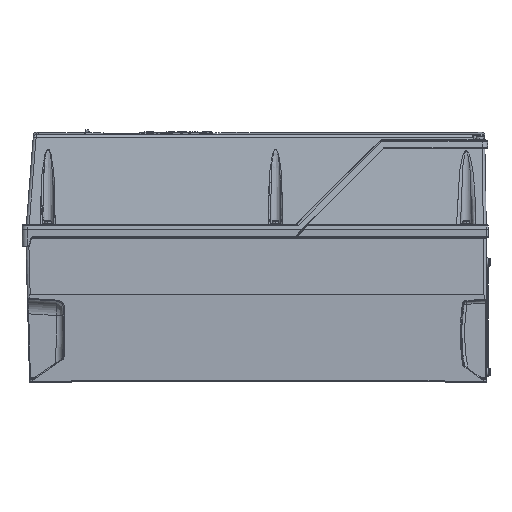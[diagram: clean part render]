
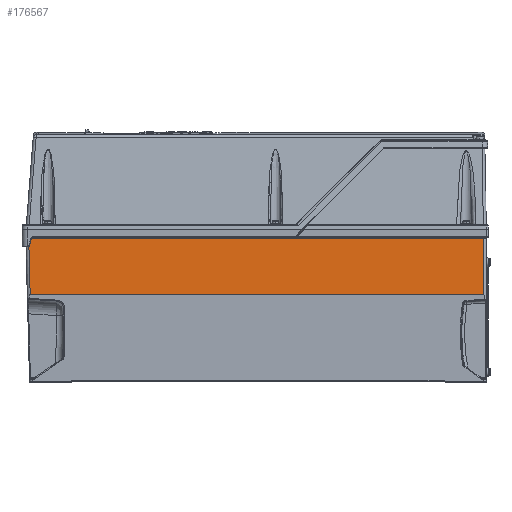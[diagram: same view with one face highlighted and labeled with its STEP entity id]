
A CAD part, left-side view. The second image highlights one B-rep face of the part: STEP entity #176567.
In plain terms, the highlighted planar face has unit normal (-1, 0, 0.024).
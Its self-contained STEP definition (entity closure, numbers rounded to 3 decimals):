
#1884=DIRECTION('',(0.,1.,0.));
#1885=VECTOR('',#1884,469.893);
#1886=CARTESIAN_POINT('',(-119.097,-235.,
-1.979));
#1887=LINE('',#1886,#1885);
#45195=CARTESIAN_POINT('',(-120.515,233.374,
-60.));
#45197=DIRECTION('',(0.,-1.,0.));
#45198=VECTOR('',#45197,468.374);
#45199=CARTESIAN_POINT('',(-120.515,233.374,
-60.));
#45200=LINE('',#45199,#45198);
#51315=DIRECTION('',(0.024,0.,1.));
#51316=VECTOR('',#51315,58.039);
#51317=CARTESIAN_POINT('',(-120.515,-235.,
-60.));
#51318=LINE('',#51317,#51316);
#51319=DIRECTION('',(0.024,0.026,0.999));
#51320=VECTOR('',#51319,58.059);
#51321=CARTESIAN_POINT('',(-120.515,233.374,
-60.));
#51322=LINE('',#51321,#51320);
#60002=CARTESIAN_POINT('',(-119.097,234.893,
-1.979));
#60003=VERTEX_POINT('',#60002);
#60004=CARTESIAN_POINT('',(-119.097,-235.,
-1.979));
#60005=VERTEX_POINT('',#60004);
#60551=VERTEX_POINT('',#45195);
#60552=CARTESIAN_POINT('',(-120.515,-235.,
-60.));
#60553=VERTEX_POINT('',#60552);
#176556=CARTESIAN_POINT('',(-120.515,-238.,-60.));
#176557=DIRECTION('',(-1.,0.,0.024));
#176558=DIRECTION('',(0.024,0.,1.));
#176559=AXIS2_PLACEMENT_3D('',#176556,#176557,#176558);
#176560=PLANE('',#176559);
#176561=ORIENTED_EDGE('',*,*,#73216,.F.);
#176562=ORIENTED_EDGE('',*,*,#176549,.F.);
#176563=ORIENTED_EDGE('',*,*,#164385,.F.);
#176564=ORIENTED_EDGE('',*,*,#164275,.T.);
#176565=EDGE_LOOP('',(#176561,#176562,#176563,#176564));
#176566=FACE_OUTER_BOUND('',#176565,.F.);
#73216=EDGE_CURVE('',#60005,#60003,#1887,.T.);
#164275=EDGE_CURVE('',#60551,#60003,#51322,.T.);
#164385=EDGE_CURVE('',#60551,#60553,#45200,.T.);
#176549=EDGE_CURVE('',#60553,#60005,#51318,.T.);
#176567=ADVANCED_FACE('',(#176566),#176560,.T.);
